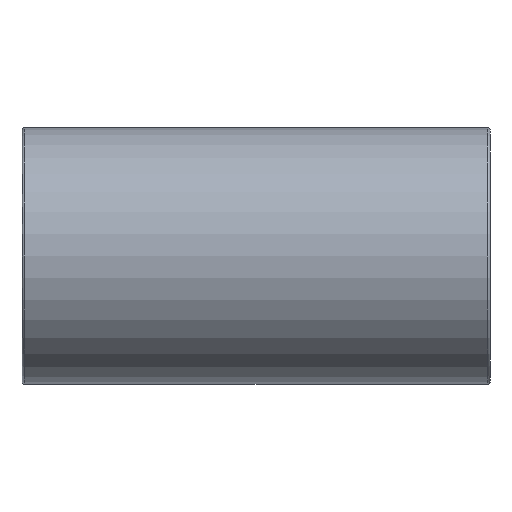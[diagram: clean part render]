
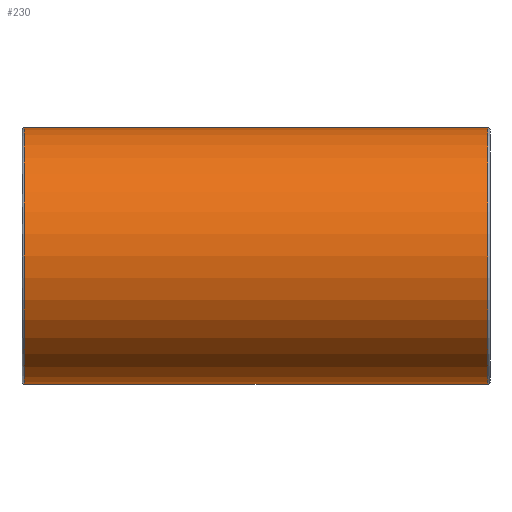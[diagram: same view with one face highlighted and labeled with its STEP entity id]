
A CAD part, front view. The second image highlights one B-rep face of the part: STEP entity #230.
In plain terms, the highlighted cylindrical face has radius 74 mm (diameter 148 mm), a full revolution.
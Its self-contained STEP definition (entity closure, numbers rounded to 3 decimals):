
#15=ELLIPSE('',#253,104.652,74.);
#16=ELLIPSE('',#254,104.652,74.);
#21=CYLINDRICAL_SURFACE('',#259,74.);
#38=FACE_BOUND('',#85,.T.);
#39=FACE_BOUND('',#86,.T.);
#59=FACE_OUTER_BOUND('',#84,.T.);
#84=EDGE_LOOP('',(#187));
#85=EDGE_LOOP('',(#188,#189));
#86=EDGE_LOOP('',(#190));
#118=CIRCLE('',#260,74.);
#119=CIRCLE('',#261,74.);
#134=VERTEX_POINT('',#383);
#135=VERTEX_POINT('',#384);
#138=VERTEX_POINT('',#394);
#139=VERTEX_POINT('',#396);
#156=EDGE_CURVE('',#134,#135,#15,.T.);
#157=EDGE_CURVE('',#135,#134,#16,.T.);
#160=EDGE_CURVE('',#138,#138,#118,.T.);
#161=EDGE_CURVE('',#139,#139,#119,.T.);
#187=ORIENTED_EDGE('',*,*,#160,.F.);
#188=ORIENTED_EDGE('',*,*,#156,.T.);
#189=ORIENTED_EDGE('',*,*,#157,.T.);
#190=ORIENTED_EDGE('',*,*,#161,.F.);
#230=ADVANCED_FACE('',(#59,#38,#39),#21,.T.);
#253=AXIS2_PLACEMENT_3D('',#385,#304,#305);
#254=AXIS2_PLACEMENT_3D('',#386,#306,#307);
#259=AXIS2_PLACEMENT_3D('',#393,#316,#317);
#260=AXIS2_PLACEMENT_3D('',#395,#318,#319);
#261=AXIS2_PLACEMENT_3D('',#397,#320,#321);
#304=DIRECTION('center_axis',(0.707,-0.707,0.));
#305=DIRECTION('ref_axis',(-0.707,-0.707,0.));
#306=DIRECTION('center_axis',(-0.707,-0.707,0.));
#307=DIRECTION('ref_axis',(-0.707,0.707,0.));
#316=DIRECTION('center_axis',(1.,0.,0.));
#317=DIRECTION('ref_axis',(0.,1.,0.));
#318=DIRECTION('center_axis',(-1.,0.,0.));
#319=DIRECTION('ref_axis',(0.,-1.,0.));
#320=DIRECTION('center_axis',(1.,0.,0.));
#321=DIRECTION('ref_axis',(0.,-1.,0.));
#383=CARTESIAN_POINT('',(0.,0.,-74.));
#384=CARTESIAN_POINT('',(0.,0.,74.));
#385=CARTESIAN_POINT('Origin',(0.,0.,0.));
#386=CARTESIAN_POINT('Origin',(0.,0.,0.));
#393=CARTESIAN_POINT('Origin',(0.,0.,
0.));
#394=CARTESIAN_POINT('',(-133.75,74.,0.));
#395=CARTESIAN_POINT('Origin',(-133.75,0.,0.));
#396=CARTESIAN_POINT('',(133.75,74.,0.));
#397=CARTESIAN_POINT('Origin',(133.75,0.,0.));
